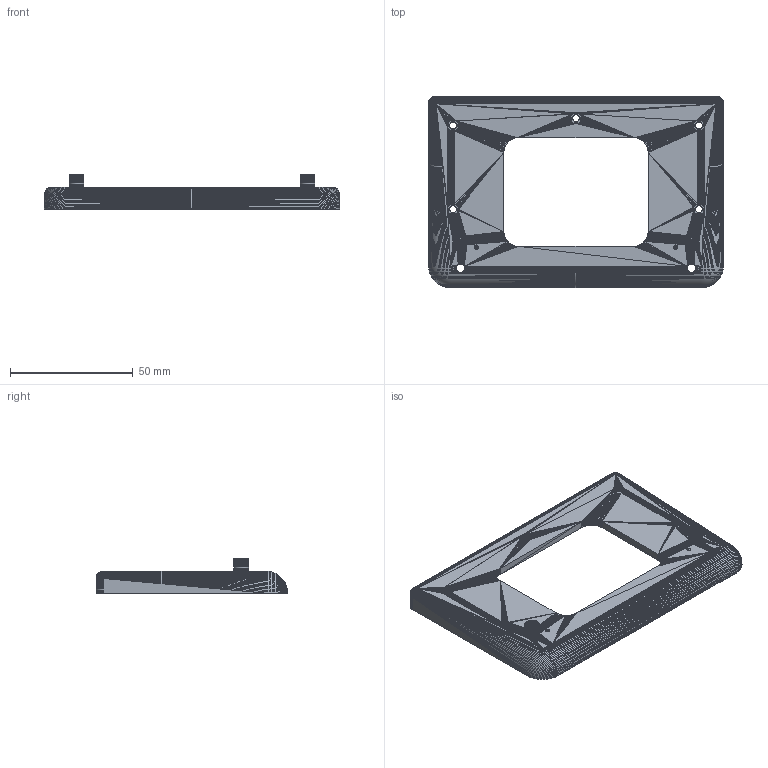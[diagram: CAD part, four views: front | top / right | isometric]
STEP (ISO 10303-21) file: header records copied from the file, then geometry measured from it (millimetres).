
FILE_DESCRIPTION(('BEAREE face_plate - faceted solid, tessellated from the OpenSCAD model'),'2;1');
FILE_NAME('face_plate.step','2026-08-05T18:55:26',('BEAREE'),(''),'tools/step_gen.js','OpenSCAD 2021.01','');
FILE_SCHEMA(('AUTOMOTIVE_DESIGN { 1 0 10303 214 1 1 1 1 }'));
Products named in the file (1): face_plate
Bounding box: 120 x 77.99 x 14 mm (x, y, z)
Volume: 25170.4 mm3; surface area: 19019.9 mm2
Topology: 1 solids, 1 shells, 20732 faces, 31098 edges, 10352 vertices
Faces by surface type: plane 20732
Entity records: 352434 total; most frequent: DIRECTION 72564, ORIENTED_EDGE 62196, VECTOR 31098, LINE 31098, EDGE_CURVE 31098, AXIS2_PLACEMENT_3D 20733, EDGE_LOOP 20732, FACE_OUTER_BOUND 20732
